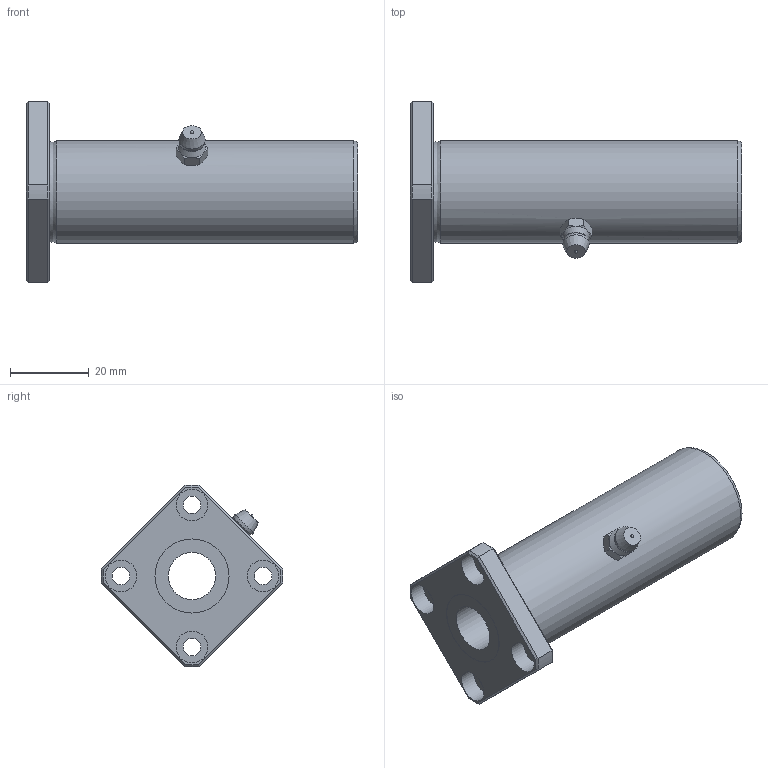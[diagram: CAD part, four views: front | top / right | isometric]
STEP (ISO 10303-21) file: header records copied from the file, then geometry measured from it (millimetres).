
FILE_DESCRIPTION((''),'2;1');
FILE_NAME('D:\製品 (図面)\カタログ用3D\リニアベアリング関連\STEP形式\LFLK\LFLK12.stp','2010-06-04T09:07:56',('Tsuchiya'),(''),'Autodesk Inventor 10','Autodesk Inventor 10','');
FILE_SCHEMA(('AUTOMOTIVE_DESIGN { 1 0 10303 214 1 1 1 1 }'));
Length unit declared in the file: millimetre
Products named in the file (1): LFLK12
Bounding box: 84 x 45.98 x 45.98 mm (x, y, z)
Volume: 38366.6 mm3; surface area: 13049.9 mm2
Topology: 1 solids, 1 shells, 76 faces, 159 edges, 94 vertices
Faces by surface type: plane 31, cone 21, cylinder 18, bspline 3, sphere 2, torus 1
Full cylindrical faces by diameter (mm): 4.5 x4, 8 x4, 12 x1, 18.8 x2, 26 x1
Entity records: 2171 total; most frequent: CARTESIAN_POINT 657, DIRECTION 310, ORIENTED_EDGE 280, EDGE_CURVE 140, AXIS2_PLACEMENT_3D 138, EDGE_LOOP 114, VERTEX_POINT 92, FACE_OUTER_BOUND 76
